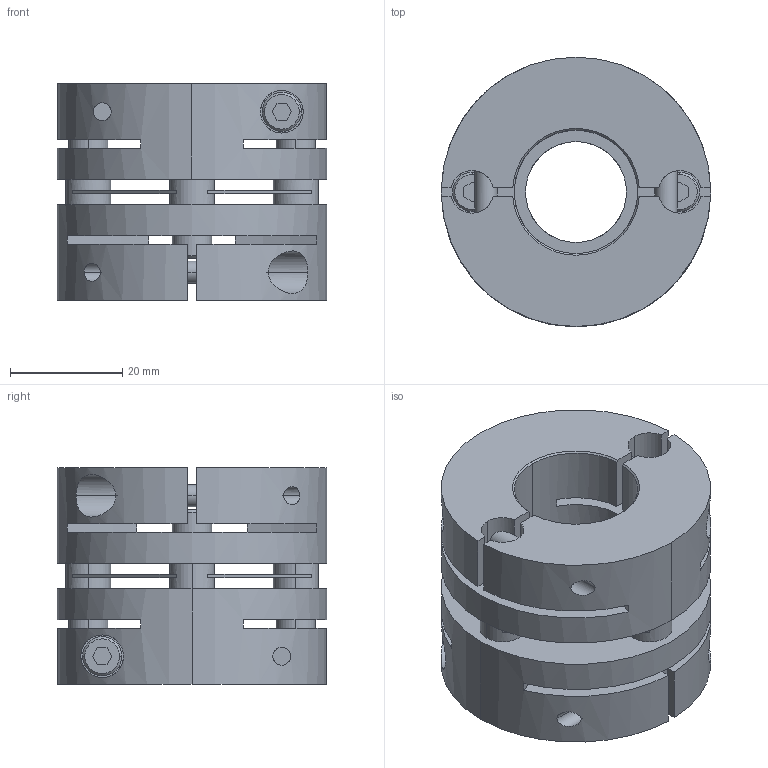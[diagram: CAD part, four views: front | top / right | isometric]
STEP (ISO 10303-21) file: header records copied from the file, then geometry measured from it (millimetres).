
FILE_DESCRIPTION((''),'2;1');
FILE_NAME('LAS-48C-18×22.stp','2015-10-14T15:48:08',(''),(''),'AutoCAD STEP 2000i','AutoCAD 2000i',', , ');
FILE_SCHEMA(('CONFIG_CONTROL_DESIGN'));
Length unit declared in the file: millimetre
Products named in the file (7): LAS-48C-19×19; 忣兜1; LA-4802-D19-1; LA-4802-D19; LA-4802-D12-1; LA-4802-D12; LAS48-ITA
Assembly tree (6 placements, depth 2):
  LAS-48C-19×19
    忣兜1
    LA-4802-D19-1
    LA-4802-D19
    LA-4802-D12-1
    LA-4802-D12
    LAS48-ITA
Bounding box: 48 x 48 x 38.6 mm (x, y, z)
Volume: 45935.7 mm3; surface area: 21631.1 mm2
Topology: 1 solids, 1 shells, 224 faces, 612 edges, 400 vertices
Faces by surface type: plane 112, cylinder 84, cone 28
Entity records: 8075 total; most frequent: CARTESIAN_POINT 2043, DIRECTION 1262, ORIENTED_EDGE 1224, EDGE_CURVE 612, AXIS2_PLACEMENT_3D 459, VERTEX_POINT 400, VECTOR 344, LINE 344
